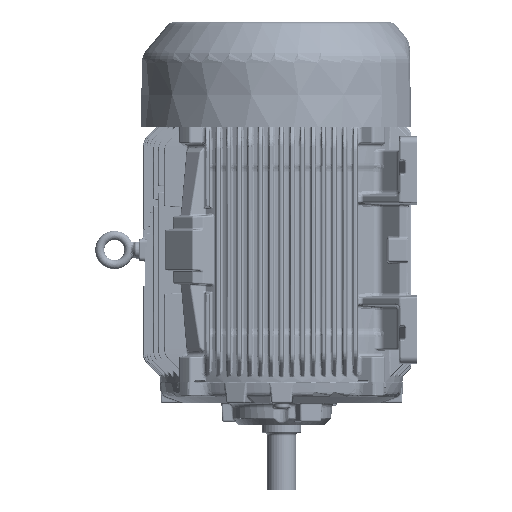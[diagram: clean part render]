
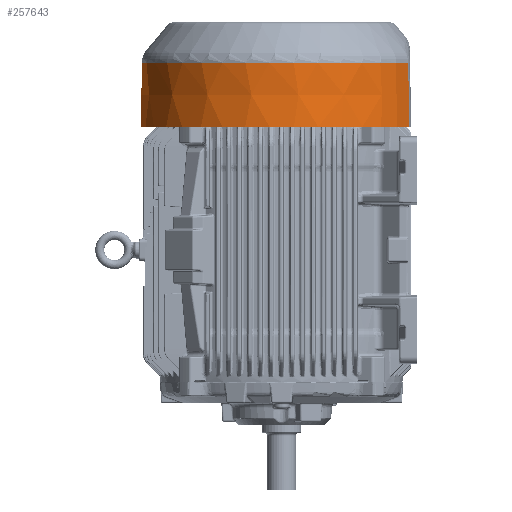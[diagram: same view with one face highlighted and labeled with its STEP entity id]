
A CAD part, left-side view. The second image highlights one B-rep face of the part: STEP entity #257643.
In plain terms, the highlighted conical face has half-angle 1 degrees and reference radius 263.606 mm.
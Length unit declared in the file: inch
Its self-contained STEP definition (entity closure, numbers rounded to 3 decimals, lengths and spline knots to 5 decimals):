
#250789=CARTESIAN_POINT('',(-4.38815,-9.45051,0.));
#250801=CARTESIAN_POINT('',(4.38815,-9.45051,0.));
#250807=CARTESIAN_POINT('',(-4.37264,-9.36644,
-4.74313));
#250808=CARTESIAN_POINT('',(-4.37393,-9.37342,
-4.34914));
#250809=CARTESIAN_POINT('',(-4.37648,-9.38726,
-3.5667));
#250810=CARTESIAN_POINT('',(-4.3802,-9.40736,
-2.43388));
#250811=CARTESIAN_POINT('',(-4.384,-9.42801,
-1.26935));
#250812=CARTESIAN_POINT('',(-4.38674,-9.44287,
-0.43116));
#250813=CARTESIAN_POINT('',(-4.38815,-9.45051,0.));
#250815=CARTESIAN_POINT('',(0.,0.,-4.74313));
#250816=DIRECTION('',(0.,0.,-1.));
#250817=DIRECTION('',(-0.423,-0.906,0.));
#250818=AXIS2_PLACEMENT_3D('',#250815,#250816,#250817);
#250820=CARTESIAN_POINT('',(4.38815,-9.45051,0.));
#250821=CARTESIAN_POINT('',(4.38698,-9.44414,
-0.35943));
#250822=CARTESIAN_POINT('',(4.38458,-9.43112,
-1.09362));
#250823=CARTESIAN_POINT('',(4.38086,-9.41098,
-2.22957));
#250824=CARTESIAN_POINT('',(4.37692,-9.38963,
-3.43405));
#250825=CARTESIAN_POINT('',(4.37409,-9.37432,
-4.29751));
#250826=CARTESIAN_POINT('',(4.37263,-9.36641,
-4.74313));
#250828=CARTESIAN_POINT('',(0.,0.,0.));
#250829=DIRECTION('',(0.,0.,1.));
#250830=DIRECTION('',(0.421,-0.907,0.));
#250831=AXIS2_PLACEMENT_3D('',#250828,#250829,#250830);
#255552=VERTEX_POINT('',#250789);
#255555=VERTEX_POINT('',#250807);
#255562=CARTESIAN_POINT('',(4.37263,-9.36641,
-4.74313));
#255563=VERTEX_POINT('',#255562);
#255565=VERTEX_POINT('',#250801);
#257631=CARTESIAN_POINT('',(0.,0.,-2.37157));
#257632=DIRECTION('',(0.,0.,1.));
#257633=DIRECTION('',(0.,1.,0.));
#257634=AXIS2_PLACEMENT_3D('',#257631,#257632,#257633);
#257635=CONICAL_SURFACE('',#257634,10.3782,1.);
#257636=ORIENTED_EDGE('',*,*,#257612,.F.);
#257637=ORIENTED_EDGE('',*,*,#257490,.T.);
#257639=ORIENTED_EDGE('',*,*,#257638,.F.);
#257640=ORIENTED_EDGE('',*,*,#257623,.T.);
#257641=EDGE_LOOP('',(#257636,#257637,#257639,#257640));
#257642=FACE_OUTER_BOUND('',#257641,.F.);
#257643=ADVANCED_FACE('',(#257642),#257635,.T.);
#250814=B_SPLINE_CURVE_WITH_KNOTS('',3,(#250807,#250808,#250809,#250810,#250811,
#250812,#250813),.UNSPECIFIED.,.F.,.F.,(4,1,1,1,4),(0.,0.25,0.5,0.75,
1.),.UNSPECIFIED.);
#250819=CIRCLE('',#250818,10.33681);
#250827=B_SPLINE_CURVE_WITH_KNOTS('',3,(#250820,#250821,#250822,#250823,#250824,
#250825,#250826),.UNSPECIFIED.,.F.,.F.,(4,1,1,1,4),(0.,0.25,0.5,0.75,
1.),.UNSPECIFIED.);
#250832=CIRCLE('',#250831,10.4196);
#257490=EDGE_CURVE('',#255555,#255563,#250819,.T.);
#257612=EDGE_CURVE('',#255555,#255552,#250814,.T.);
#257623=EDGE_CURVE('',#255565,#255552,#250832,.T.);
#257638=EDGE_CURVE('',#255565,#255563,#250827,.T.);
